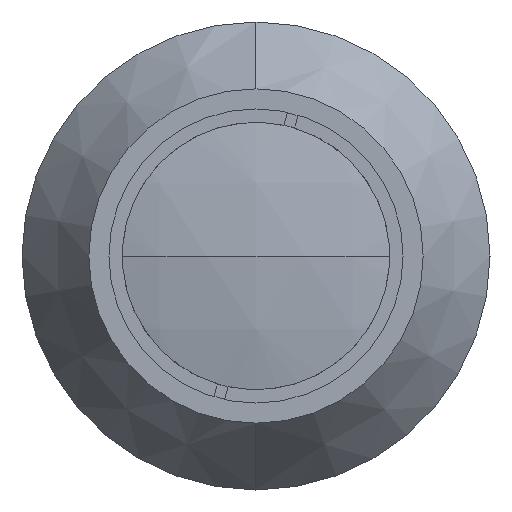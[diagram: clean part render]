
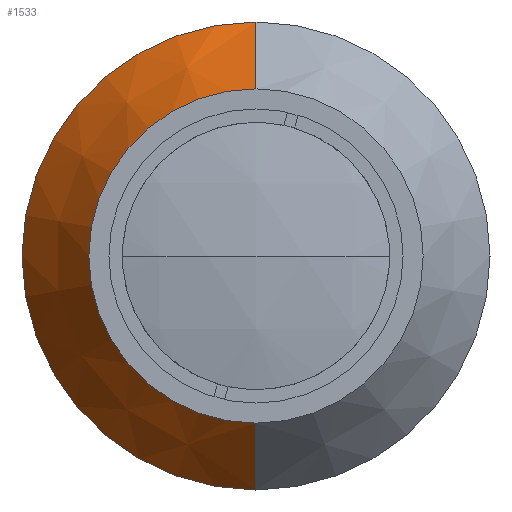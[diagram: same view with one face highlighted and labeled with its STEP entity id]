
A CAD part, left-side view. The second image highlights one B-rep face of the part: STEP entity #1533.
In plain terms, the highlighted conical face has half-angle 35 degrees and reference radius 21 mm.
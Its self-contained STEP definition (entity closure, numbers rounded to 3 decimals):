
#3 = EDGE_CURVE ( 'NONE', #148, #1023, #877, .T. ) ;
#23 = EDGE_CURVE ( 'NONE', #2314, #520, #830, .T. ) ;
#148 = VERTEX_POINT ( 'NONE', #300 ) ;
#300 = CARTESIAN_POINT ( 'NONE',  ( 15., 0., 15. ) ) ;
#520 = VERTEX_POINT ( 'NONE', #1784 ) ;
#562 = ORIENTED_EDGE ( 'NONE', *, *, #1895, .F. ) ;
#605 = ORIENTED_EDGE ( 'NONE', *, *, #3, .T. ) ;
#802 = DIRECTION ( 'NONE',  ( 0., 0., -1. ) ) ;
#814 = CARTESIAN_POINT ( 'NONE',  ( 15., 0., -15. ) ) ;
#830 = LINE ( 'NONE', #2170, #881 ) ;
#877 = LINE ( 'NONE', #3750, #917 ) ;
#881 = VECTOR ( 'NONE', #4029, 1000. ) ;
#917 = VECTOR ( 'NONE', #1839, 1000. ) ;
#1023 = VERTEX_POINT ( 'NONE', #3951 ) ;
#1229 = DIRECTION ( 'NONE',  ( -1., 0., 0. ) ) ;
#1369 = ORIENTED_EDGE ( 'NONE', *, *, #1870, .T. ) ;
#1514 = ORIENTED_EDGE ( 'NONE', *, *, #23, .F. ) ;
#1523 = CARTESIAN_POINT ( 'NONE',  ( 23.569, 0., 0. ) ) ;
#1533 = ADVANCED_FACE ( 'NONE', ( #2259 ), #2206, .T. ) ;
#1764 = CIRCLE ( 'NONE', #3432, 15. ) ;
#1784 = CARTESIAN_POINT ( 'NONE',  ( 23.569, 0., -21. ) ) ;
#1820 = CIRCLE ( 'NONE', #3456, 21. ) ;
#1836 = DIRECTION ( 'NONE',  ( 0., 0., 1. ) ) ;
#1839 = DIRECTION ( 'NONE',  ( 0.819, 0., 0.574 ) ) ;
#1870 = EDGE_CURVE ( 'NONE', #1023, #520, #1820, .T. ) ;
#1895 = EDGE_CURVE ( 'NONE', #148, #2314, #1764, .T. ) ;
#2170 = CARTESIAN_POINT ( 'NONE',  ( 23.569, 0., -21. ) ) ;
#2206 = CONICAL_SURFACE ( 'NONE', #4039, 21., 0.611 ) ;
#2259 = FACE_OUTER_BOUND ( 'NONE', #3161, .T. ) ;
#2314 = VERTEX_POINT ( 'NONE', #814 ) ;
#3078 = DIRECTION ( 'NONE',  ( 1., 0., 0. ) ) ;
#3161 = EDGE_LOOP ( 'NONE', ( #562, #605, #1369, #1514 ) ) ;
#3183 = CARTESIAN_POINT ( 'NONE',  ( 15., 0., 0. ) ) ;
#3432 = AXIS2_PLACEMENT_3D ( 'NONE', #3183, #1229, #3489 ) ;
#3456 = AXIS2_PLACEMENT_3D ( 'NONE', #1523, #3746, #1836 ) ;
#3489 = DIRECTION ( 'NONE',  ( 0., 0., 1. ) ) ;
#3746 = DIRECTION ( 'NONE',  ( -1., 0., 0. ) ) ;
#3750 = CARTESIAN_POINT ( 'NONE',  ( 23.569, 0., 21. ) ) ;
#3951 = CARTESIAN_POINT ( 'NONE',  ( 23.569, 0., 21. ) ) ;
#3953 = CARTESIAN_POINT ( 'NONE',  ( 23.569, 0., 0. ) ) ;
#4029 = DIRECTION ( 'NONE',  ( 0.819, 0., -0.574 ) ) ;
#4039 = AXIS2_PLACEMENT_3D ( 'NONE', #3953, #3078, #802 ) ;
